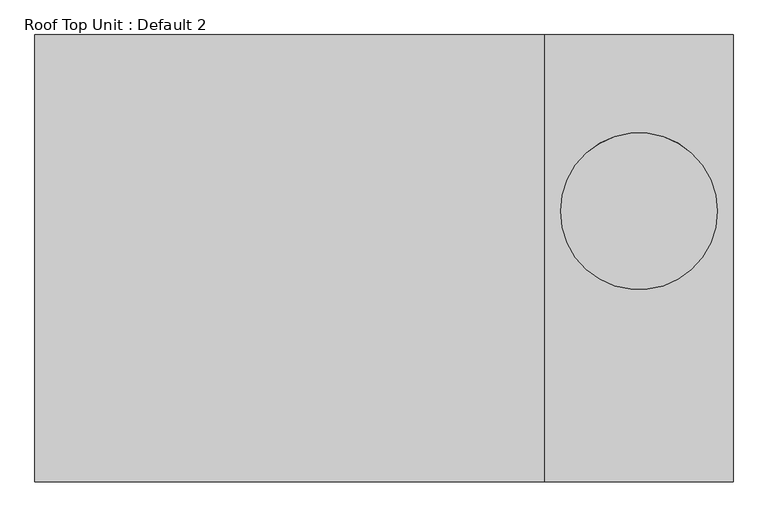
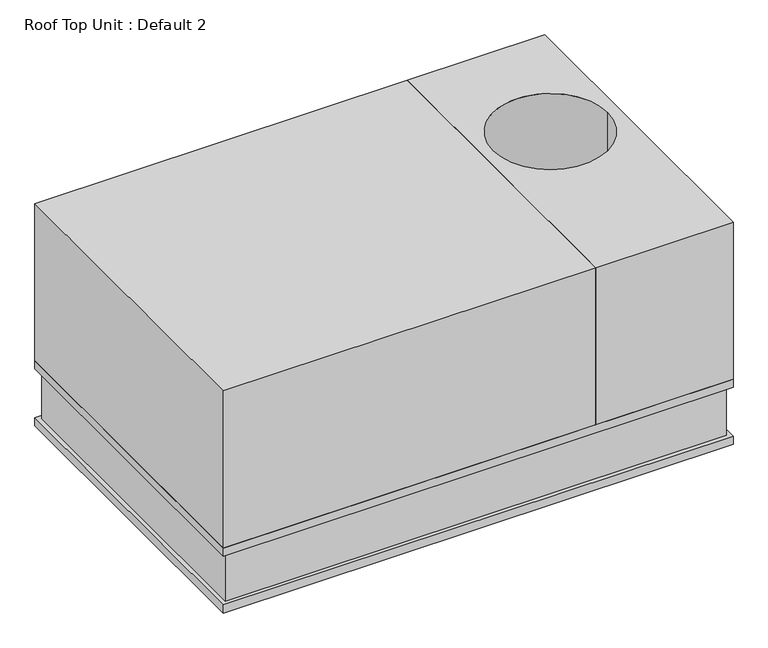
"""IFC4 building model written with IfcOpenShell, lengths in millimetres: proxy geometry, Roof Top Unit : Default 2."""

from ifc_helpers import new_model, si_unit, frame, origin, place, context, project, spatial, polyline, circle_curve, outline, extrude, faceted_brep, source, transform, mapped, element, save
from ifc_brep_helpers import plane_surface, revolved_surface, advanced_brep


def roof_top_unit_default_2_9a5b938b(model_context):
    return source(origin(), model_context, "Body", "SolidModel", [
        faceted_brep([(1598.5049807, 698.5, 304.8), (1598.5049807, 698.5, 0.0), (1598.5049807, -698.5, 0.0), (1598.5049807, -698.5, 304.8), (1623.9049807, 723.9, 266.7), (1623.9049807, 723.9, 304.8), (1623.9049807, -723.9, 304.8), (1623.9049807, -723.9, 266.7), (1604.8549807, 704.85, 38.1), (1604.8549807, 704.85, 266.7), (1604.8549807, -704.85, 266.7), (1604.8549807, -704.85, 38.1), (1623.9049807, 723.9, 0.0), (1623.9049807, 723.9, 38.1), (1623.9049807, -723.9, 38.1), (1623.9049807, -723.9, 0.0), (-611.2950193, -698.5, 0.0), (-611.2950193, -698.5, 304.8), (-636.6950193, -723.9, 304.8), (-636.6950193, -723.9, 266.7), (-617.6450193, -704.85, 266.7), (-617.6450193, -704.85, 38.1), (-636.6950193, -723.9, 38.1), (-636.6950193, -723.9, 0.0), (-611.2950193, 698.5, 0.0), (-611.2950193, 698.5, 304.8), (-636.6950193, 723.9, 304.8), (-636.6950193, 723.9, 266.7), (-617.6450193, 704.85, 266.7), (-617.6450193, 704.85, 38.1), (-636.6950193, 723.9, 38.1), (-636.6950193, 723.9, 0.0)], [[[0, 1, 2, 3]], [[4, 5, 6, 7]], [[8, 9, 10, 11]], [[12, 13, 14, 15]], [[3, 2, 16, 17]], [[7, 6, 18, 19]], [[11, 10, 20, 21]], [[15, 14, 22, 23]], [[17, 16, 24, 25]], [[19, 18, 26, 27]], [[21, 20, 28, 29]], [[23, 22, 30, 31]], [[25, 24, 1, 0]], [[5, 26, 18, 6], [3, 17, 25, 0]], [[27, 26, 5, 4]], [[7, 19, 27, 4], [9, 28, 20, 10]], [[29, 28, 9, 8]], [[13, 30, 22, 14], [11, 21, 29, 8]], [[31, 30, 13, 12]], [[15, 23, 31, 12], [1, 24, 16, 2]]]),
        extrude(outline(polyline([(734.9049807, 723.9), (988.9049807, 723.9), (988.9049807, 698.5), (734.9049807, 698.5), (734.9049807, 723.9)])), frame((0.0, 0.0, 457.2), z_axis=(0.0, 0.0, 1.0), x_axis=(1.0, 0.0, 0.0)), (0.0, 0.0, 1.0), 444.5),
        extrude(outline(polyline([(-420.7950193, 723.9), (-166.7950193, 723.9), (-166.7950193, 698.5), (-420.7950193, 698.5), (-420.7950193, 723.9)])), frame((0.0, 0.0, 457.2), z_axis=(0.0, 0.0, 1.0), x_axis=(1.0, 0.0, 0.0)), (0.0, 0.0, 1.0), 444.5),
        advanced_brep(
        [(1623.9049807, 723.9, 1041.4), (1014.3049807, 723.9, 1041.4), (1014.3049807, -723.9, 1041.4), (1623.9049807, -723.9, 1041.4), (1573.1049807, 152.4, 1041.4), (1065.1049807, 152.4, 1041.4), (1623.9049807, 723.9, 304.8), (1623.9049807, -723.9, 304.8), (1014.3049807, -723.9, 304.8), (1014.3049807, 723.9, 304.8), (1065.1049807, 152.4, 330.2), (1573.1049807, 152.4, 330.2)],
        [
            (0, 1),
            (1, 2),
            (2, 3),
            (3, 0),
            (4, 5, circle_curve(frame((1319.1049807, 152.4, 1041.4), z_axis=(0.0, 0.0, -1.0), x_axis=(1.0, 0.0, 0.0)), 254.0)),
            (5, 4, circle_curve(frame((1319.1049807, 152.4, 1041.4), z_axis=(0.0, 0.0, -1.0), x_axis=(1.0, 0.0, 0.0)), 254.0)),
            (6, 7),
            (7, 8),
            (8, 9),
            (9, 6),
            (0, 6),
            (9, 1),
            (8, 2),
            (7, 3),
            (10, 11, circle_curve(frame((1319.1049807, 152.4, 330.2), z_axis=(0.0, 0.0, 1.0), x_axis=(1.0, 0.0, 0.0)), 254.0)),
            (11, 10, circle_curve(frame((1319.1049807, 152.4, 330.2), z_axis=(0.0, 0.0, 1.0), x_axis=(1.0, 0.0, 0.0)), 254.0)),
            (10, 5),
            (4, 11),
        ],
        [
            plane_surface(frame((1014.3049807, 723.9, 1041.4), z_axis=(0.0, 0.0, 1.0), x_axis=(-1.0, 0.0, 0.0))),
            plane_surface(frame((1014.3049807, 723.9, 304.8), z_axis=(0.0, 0.0, -1.0), x_axis=(1.0, 0.0, 0.0))),
            plane_surface(frame((1623.9049807, 723.9, 1041.4), z_axis=(0.0, 1.0, 0.0), x_axis=(0.0, 0.0, -1.0))),
            plane_surface(frame((1014.3049807, 723.9, 1041.4), z_axis=(-1.0, 0.0, 0.0), x_axis=(0.0, 0.0, -1.0))),
            plane_surface(frame((1014.3049807, -723.9, 1041.4), z_axis=(0.0, -1.0, 0.0), x_axis=(0.0, 0.0, -1.0))),
            plane_surface(frame((1623.9049807, -723.9, 1041.4), z_axis=(1.0, 0.0, 0.0), x_axis=(0.0, 0.0, -1.0))),
            plane_surface(frame((1573.1049807, 152.4, 330.2), z_axis=(0.0, 0.0, 1.0), x_axis=(0.0, -1.0, 0.0))),
            revolved_surface(polyline([(1573.1049807, 152.4, 1041.4), (1573.1049807, 152.4, 330.2)]), (1319.1049807, 152.4, 330.2), (0.0, 0.0, 1.0)),
        ],
        [
            (0, [[1, 2, 3, 4], [5, 6]]),
            (1, [[7, 8, 9, 10]]),
            (2, [[-1, 11, -10, 12]]),
            (3, [[-2, -12, -9, 13]]),
            (4, [[-3, -13, -8, 14]]),
            (5, [[-4, -14, -7, -11]]),
            (6, [[15, 16]]),
            (7, [[-15, 17, -5, 18]]),
            (7, [[-16, -18, -6, -17]]),
        ],
    ),
        faceted_brep([(1014.3049807, -723.9, 1041.4), (1014.3049807, 723.9, 1041.4), (-636.6950193, 723.9, 1041.4), (-636.6950193, -723.9, 1041.4), (1014.3049807, -723.9, 304.8), (-636.6950193, -723.9, 304.8), (-636.6950193, 723.9, 304.8), (1014.3049807, 723.9, 304.8), (734.9049807, 698.5, 304.8), (734.9049807, 254.0, 304.8), (988.9049807, 254.0, 304.8), (988.9049807, 698.5, 304.8), (-166.7950193, 698.5, 304.8), (-611.2950193, 698.5, 304.8), (-611.2950193, 190.5, 304.8), (-166.7950193, 190.5, 304.8), (-420.7950193, 723.9, 901.7), (-420.7950193, 723.9, 457.2), (-166.7950193, 723.9, 457.2), (-166.7950193, 723.9, 901.7), (734.9049807, 723.9, 901.7), (734.9049807, 723.9, 457.2), (988.9049807, 723.9, 457.2), (988.9049807, 723.9, 901.7), (734.9049807, 698.5, 990.6), (988.9049807, 698.5, 990.6), (988.9049807, 254.0, 990.6), (734.9049807, 254.0, 990.6), (734.9049807, 698.5, 457.2), (734.9049807, 698.5, 901.7), (988.9049807, 698.5, 901.7), (988.9049807, 698.5, 457.2), (-166.7950193, 698.5, 990.6), (-166.7950193, 190.5, 990.6), (-611.2950193, 190.5, 990.6), (-611.2950193, 698.5, 990.6), (-166.7950193, 698.5, 457.2), (-420.7950193, 698.5, 457.2), (-420.7950193, 698.5, 901.7), (-166.7950193, 698.5, 901.7), (-166.7950193, 190.5, 901.7), (-420.7950193, 190.5, 901.7), (-420.7950193, 190.5, 457.2), (-166.7950193, 190.5, 457.2), (-166.7950193, 177.8, 457.2), (-166.7950193, 177.8, 901.7), (-420.7950193, 177.8, 901.7), (-420.7950193, 177.8, 457.2)], [[[0, 1, 2, 3]], [[4, 5, 6, 7], [8, 9, 10, 11], [12, 13, 14, 15]], [[1, 0, 4, 7]], [[2, 1, 7, 6], [16, 17, 18, 19], [20, 21, 22, 23]], [[3, 2, 6, 5]], [[0, 3, 5, 4]], [[24, 25, 26, 27]], [[24, 27, 9, 8, 28, 21, 20, 29]], [[9, 27, 26, 10]], [[26, 25, 30, 23, 22, 31, 11, 10]], [[8, 11, 31, 28]], [[25, 24, 29, 30]], [[32, 33, 34, 35]], [[32, 35, 13, 12, 36, 37, 38, 39]], [[35, 34, 14, 13]], [[34, 33, 40, 41, 42, 43, 15, 14]], [[33, 32, 39, 19, 18, 36, 12, 15, 43, 44, 45, 40]], [[46, 45, 44, 47]], [[46, 47, 42, 41]], [[16, 38, 37, 17]], [[36, 18, 17, 37]], [[47, 44, 43, 42]], [[19, 39, 38, 16]], [[45, 46, 41, 40]], [[21, 28, 31, 22]], [[29, 20, 23, 30]]]),
    ])


if __name__ == "__main__":
    model = new_model("IFC4")
    model_context = context("Model", 3, world=origin())
    ifc_project = project(units=[si_unit("LENGTHUNIT", "METRE", prefix="MILLI")], contexts=[model_context])
    site = spatial("IfcSite", under=ifc_project)
    building = spatial("IfcBuilding", under=site)
    placement = place(None, origin())
    roof_top_unit_default_2_shape = roof_top_unit_default_2_9a5b938b(model_context)
    element("IfcBuildingElementProxy", 1, Name="Roof Top Unit : Default 2", ObjectType="Roof Top Unit : Default 2", at=placement, inside=building, context=model_context, shape_type="MappedRepresentation", body=[
        mapped(roof_top_unit_default_2_shape, transform((0.0, 0.0, 0.0), x_axis=(1.0, 0.0, 0.0), y_axis=(0.0, 1.0, 0.0), z_axis=(0.0, 0.0, 1.0))),
    ])
    save(model, "model.ifc")
